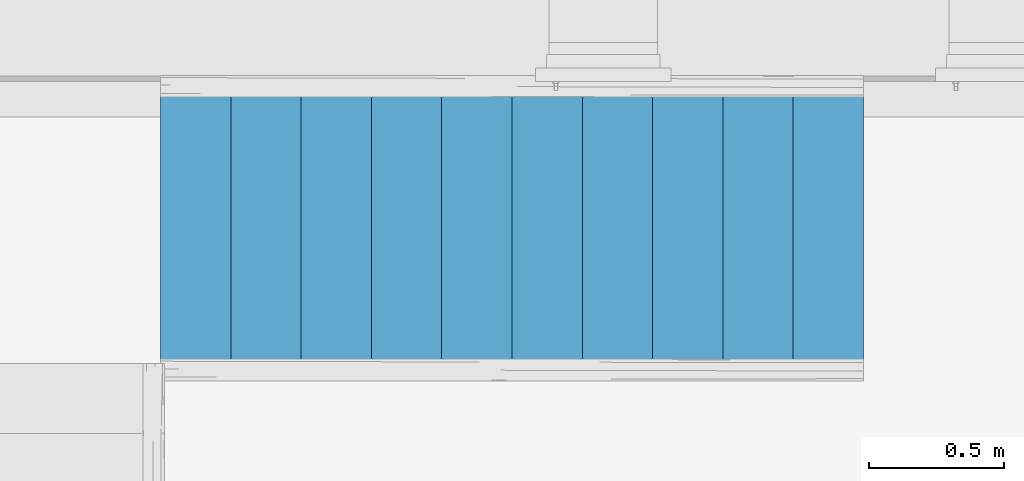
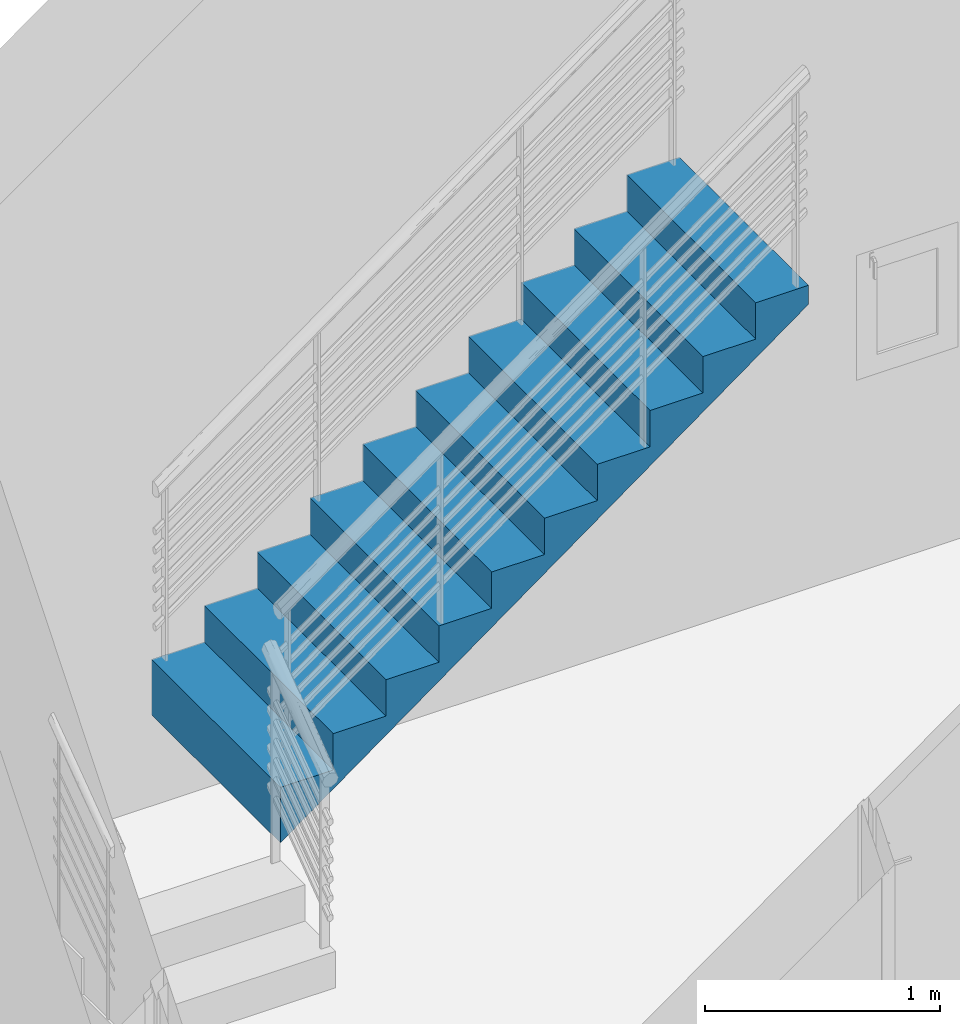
# One storey, part 12 of 20: 1 stair flight, 1 element without a shape of its own.
"""IFC2X3 building model written with IfcOpenShell, lengths in metres."""

from ifc_helpers import new_model, entity, si_unit, converted_unit, derived_unit, direction, frame, origin, place, context, subcontext, project, spatial, faceted_brep, material, type_object, element, aggregate, save


model = new_model("IFC2X3")

# Units and contexts
model_context = context("Model", 3, precision=1e-05, world=origin(), true_north=direction((6.12303176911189e-17, 1.0)))
body_context = subcontext(model_context, "Body", "Model", "MODEL_VIEW")
ifc_project = project(units=[si_unit("LENGTHUNIT", "METRE"), si_unit("AREAUNIT", "SQUARE_METRE"), si_unit("VOLUMEUNIT", "CUBIC_METRE"), converted_unit("PLANEANGLEUNIT", "DEGREE", entity("IfcRatioMeasure", 0.0174532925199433), si_unit("PLANEANGLEUNIT", "RADIAN"), dimensions=[0, 0, 0, 0, 0, 0, 0]), si_unit("MASSUNIT", "GRAM", prefix="KILO"), derived_unit("MASSDENSITYUNIT", [(si_unit("MASSUNIT", "GRAM", prefix="KILO"), 1), (si_unit("LENGTHUNIT", "METRE"), -3)]), derived_unit("MOMENTOFINERTIAUNIT", [(si_unit("LENGTHUNIT", "METRE"), 4)]), si_unit("TIMEUNIT", "SECOND"), si_unit("FREQUENCYUNIT", "HERTZ"), si_unit("THERMODYNAMICTEMPERATUREUNIT", "DEGREE_CELSIUS"), derived_unit("THERMALTRANSMITTANCEUNIT", [(si_unit("MASSUNIT", "GRAM", prefix="KILO"), 1), (si_unit("THERMODYNAMICTEMPERATUREUNIT", "KELVIN"), -1), (si_unit("TIMEUNIT", "SECOND"), -3)]), derived_unit("VOLUMETRICFLOWRATEUNIT", [(si_unit("LENGTHUNIT", "METRE"), 3), (si_unit("TIMEUNIT", "SECOND"), -1)]), si_unit("ELECTRICCURRENTUNIT", "AMPERE"), si_unit("ELECTRICVOLTAGEUNIT", "VOLT"), si_unit("POWERUNIT", "WATT"), si_unit("FORCEUNIT", "NEWTON", prefix="KILO"), si_unit("ILLUMINANCEUNIT", "LUX"), si_unit("LUMINOUSFLUXUNIT", "LUMEN"), si_unit("LUMINOUSINTENSITYUNIT", "CANDELA"), derived_unit("USERDEFINED", [(si_unit("MASSUNIT", "GRAM", prefix="KILO"), -1), (si_unit("LENGTHUNIT", "METRE"), -2), (si_unit("TIMEUNIT", "SECOND"), 3), (si_unit("LUMINOUSFLUXUNIT", "LUMEN"), 1)]), derived_unit("LINEARVELOCITYUNIT", [(si_unit("LENGTHUNIT", "METRE"), 1), (si_unit("TIMEUNIT", "SECOND"), -1)]), si_unit("PRESSUREUNIT", "PASCAL"), derived_unit("USERDEFINED", [(si_unit("LENGTHUNIT", "METRE"), -2), (si_unit("MASSUNIT", "GRAM", prefix="KILO"), 1), (si_unit("TIMEUNIT", "SECOND"), -2)]), derived_unit("LINEARFORCEUNIT", [(si_unit("MASSUNIT", "GRAM", prefix="KILO"), 1), (si_unit("LENGTHUNIT", "METRE"), 1), (si_unit("TIMEUNIT", "SECOND"), -2), (si_unit("LENGTHUNIT", "METRE"), -1)]), derived_unit("PLANARFORCEUNIT", [(si_unit("MASSUNIT", "GRAM", prefix="KILO"), 1), (si_unit("LENGTHUNIT", "METRE"), 1), (si_unit("TIMEUNIT", "SECOND"), -2), (si_unit("LENGTHUNIT", "METRE"), -2)])], contexts=[model_context])

# Site, building, storey
site_placement = place(None, origin())
site = spatial("IfcSite", under=ifc_project, at=site_placement, Name="Surface", CompositionType="ELEMENT")
building_placement = place(site_placement, origin())
building = spatial("IfcBuilding", under=site, at=building_placement, CompositionType="ELEMENT")
storey_placement = place(building_placement, origin())
storey = spatial("IfcBuildingStorey", under=building, at=storey_placement, Name="Niveau rdc", CompositionType="ELEMENT", Elevation=-1.94916083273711e-14)

# Stair, stair flight
stair_placement = place(storey_placement, origin())
stair = element("IfcStair", 1, at=stair_placement, inside=storey, Name="Escalier coulé sur place:Escalier", ObjectType="Escalier coulé sur place:Monobloc", ShapeType="NOTDEFINED")
ifc_material = material(Name="Maçonnerie - Béton")
stair_flight_type = type_object("IfcStairFlightType", Name="Volée monobloc:Profondeur de structure 80 mm", PredefinedType="STRAIGHT")
stair_flight_placement = place(stair_placement, frame((2.97197986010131, 5.91723837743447, 0.0)))
stair_flight = element("IfcStairFlight", 2, at=stair_flight_placement, type_object=stair_flight_type, material=ifc_material, Name="Escalier coulé sur place:Escalier:317581 Run 2", ObjectType="Volée monobloc:Profondeur de structure 80 mm", NumberOfRiser=11, NumberOfTreads=10, RiserHeight=0.621016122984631, TreadLength=0.853018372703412, context=body_context, shape_type="Brep", body=[
    faceted_brep([(0.260000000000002, 1.10000000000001, 0.757142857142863), (0.0, 1.10000000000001, 0.757142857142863), (0.0, 0.0, 0.757142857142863), (0.26, 0.0, 0.757142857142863), (0.260000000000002, 1.10000000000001, 0.658187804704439), (0.0, 1.10000000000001, 0.468902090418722), (0.0, 0.0, 0.468902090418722), (0.259999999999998, 0.0, 0.658187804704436), (0.520000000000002, 1.10000000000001, 0.946428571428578), (0.26, 1.10000000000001, 0.946428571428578), (0.26, 0.0, 0.946428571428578), (0.52, 0.0, 0.946428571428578), (0.520000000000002, 1.10000000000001, 0.847473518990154), (0.519999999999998, 0.0, 0.847473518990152), (0.780000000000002, 1.10000000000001, 1.13571428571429), (0.52, 1.10000000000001, 1.13571428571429), (0.52, 0.0, 1.13571428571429), (0.78, 0.0, 1.13571428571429), (0.780000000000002, 1.10000000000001, 1.03675923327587), (0.779999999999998, 0.0, 1.03675923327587), (1.04, 1.10000000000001, 1.32500000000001), (0.78, 1.10000000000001, 1.32500000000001), (0.78, 0.0, 1.32500000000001), (1.04, 0.0, 1.32500000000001), (1.04, 1.10000000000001, 1.22604494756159), (1.04, 0.0, 1.22604494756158), (1.3, 1.10000000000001, 1.51428571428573), (1.04, 1.10000000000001, 1.51428571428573), (1.04, 0.0, 1.51428571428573), (1.3, 0.0, 1.51428571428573), (1.3, 1.10000000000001, 1.4153306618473), (1.3, 0.0, 1.4153306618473), (1.56, 1.1, 1.70357142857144), (1.3, 1.10000000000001, 1.70357142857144), (1.3, 0.0, 1.70357142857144), (1.56, 0.0, 1.70357142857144), (1.56, 1.1, 1.60461637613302), (1.56, 0.0, 1.60461637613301), (1.82, 1.1, 1.89285714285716), (1.56, 1.1, 1.89285714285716), (1.56, 0.0, 1.89285714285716), (1.82, 0.0, 1.89285714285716), (1.82, 1.1, 1.79390209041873), (1.82, 0.0, 1.79390209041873), (2.08, 1.1, 2.08214285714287), (1.82, 1.1, 2.08214285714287), (1.82, 0.0, 2.08214285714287), (2.08, 0.0, 2.08214285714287), (2.08, 1.1, 1.98318780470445), (2.08, 0.0, 1.98318780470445), (2.34, 1.1, 2.27142857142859), (2.08, 1.1, 2.27142857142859), (2.08, 0.0, 2.27142857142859), (2.34, 0.0, 2.27142857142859), (2.34, 1.1, 2.17247351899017), (2.34, 0.0, 2.17247351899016), (2.6, 1.1, 2.4607142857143), (2.34, 1.1, 2.4607142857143), (2.34, 0.0, 2.4607142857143), (2.59999999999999, 0.0, 2.4607142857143), (2.6, 1.1, 2.36175923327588), (2.59999999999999, 0.0, 2.36175923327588)], [[[0, 1, 2, 3]], [[1, 0, 4, 5]], [[2, 1, 5, 6]], [[3, 2, 6, 7]], [[8, 9, 10, 11]], [[9, 8, 12, 4, 0]], [[0, 3, 10, 9]], [[11, 10, 3, 7, 13]], [[14, 15, 16, 17]], [[15, 14, 18, 12, 8]], [[8, 11, 16, 15]], [[17, 16, 11, 13, 19]], [[20, 21, 22, 23]], [[21, 20, 24, 18, 14]], [[14, 17, 22, 21]], [[23, 22, 17, 19, 25]], [[26, 27, 28, 29]], [[27, 26, 30, 24, 20]], [[20, 23, 28, 27]], [[29, 28, 23, 25, 31]], [[32, 33, 34, 35]], [[33, 32, 36, 30, 26]], [[26, 29, 34, 33]], [[35, 34, 29, 31, 37]], [[38, 39, 40, 41]], [[39, 38, 42, 36, 32]], [[32, 35, 40, 39]], [[41, 40, 35, 37, 43]], [[44, 45, 46, 47]], [[45, 44, 48, 42, 38]], [[38, 41, 46, 45]], [[47, 46, 41, 43, 49]], [[50, 51, 52, 53]], [[51, 50, 54, 48, 44]], [[44, 47, 52, 51]], [[53, 52, 47, 49, 55]], [[56, 57, 58, 59]], [[57, 56, 60, 54, 50]], [[50, 53, 58, 57]], [[59, 58, 53, 55, 61]], [[56, 59, 61, 60]], [[5, 4, 12, 18, 24, 30, 36, 42, 48, 54, 60, 61, 55, 49, 43, 37, 31, 25, 19, 13, 7, 6]]]),
])
aggregate(stair, [stair_flight])

save(model, "model.ifc")
